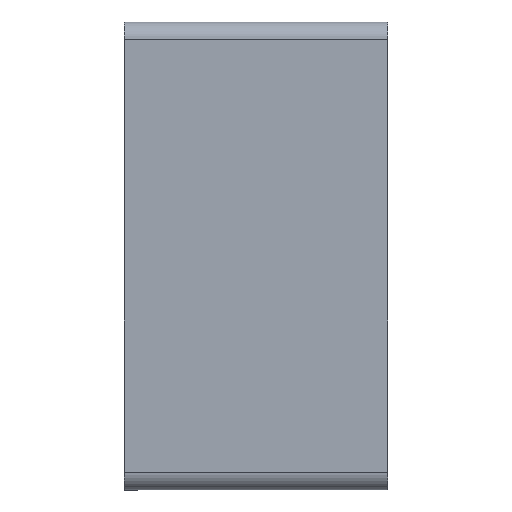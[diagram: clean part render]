
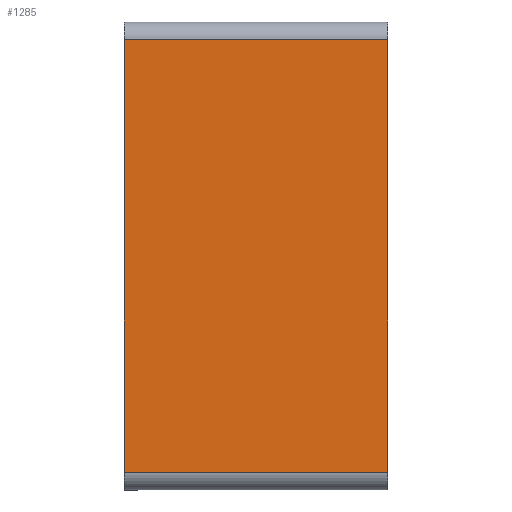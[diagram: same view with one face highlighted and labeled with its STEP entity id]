
A CAD part, top view. The second image highlights one B-rep face of the part: STEP entity #1285.
In plain terms, the highlighted planar face has unit normal (0, 0, 1).
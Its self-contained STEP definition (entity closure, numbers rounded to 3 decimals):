
#110=FACE_OUTER_BOUND('',#187,.T.);
#187=EDGE_LOOP('',(#1131,#1132,#1133,#1134));
#288=LINE('',#2180,#403);
#294=LINE('',#2198,#409);
#297=LINE('',#2205,#412);
#299=LINE('',#2208,#414);
#403=VECTOR('',#1785,10.);
#409=VECTOR('',#1807,10.);
#412=VECTOR('',#1814,1.988);
#414=VECTOR('',#1818,10.);
#598=VERTEX_POINT('',#2177);
#599=VERTEX_POINT('',#2179);
#603=VERTEX_POINT('',#2196);
#605=VERTEX_POINT('',#2204);
#765=EDGE_CURVE('',#599,#598,#288,.T.);
#774=EDGE_CURVE('',#603,#598,#294,.T.);
#777=EDGE_CURVE('',#599,#605,#297,.T.);
#779=EDGE_CURVE('',#603,#605,#299,.T.);
#1131=ORIENTED_EDGE('',*,*,#765,.T.);
#1132=ORIENTED_EDGE('',*,*,#774,.F.);
#1133=ORIENTED_EDGE('',*,*,#779,.T.);
#1134=ORIENTED_EDGE('',*,*,#777,.F.);
#1213=PLANE('',#1448);
#1285=ADVANCED_FACE('',(#110),#1213,.T.);
#1448=AXIS2_PLACEMENT_3D('',#2222,#1834,#1835);
#1785=DIRECTION('',(1.,0.,0.));
#1807=DIRECTION('',(0.,-1.,0.));
#1814=DIRECTION('',(0.,1.,0.));
#1818=DIRECTION('',(-1.,0.,0.));
#1834=DIRECTION('center_axis',(0.,0.,1.));
#1835=DIRECTION('ref_axis',(-1.,0.,0.));
#2177=CARTESIAN_POINT('',(19.835,-77.,0.));
#2179=CARTESIAN_POINT('',(-25.165,-77.,0.));
#2180=CARTESIAN_POINT('',(-13.915,-77.,0.));
#2196=CARTESIAN_POINT('',(19.835,-3.,0.));
#2198=CARTESIAN_POINT('',(19.835,-3.,0.));
#2204=CARTESIAN_POINT('',(-25.165,-3.,0.));
#2205=CARTESIAN_POINT('',(-25.165,3.244,0.));
#2208=CARTESIAN_POINT('',(-2.665,-3.,0.));
#2222=CARTESIAN_POINT('Origin',(-2.665,-39.939,0.));
